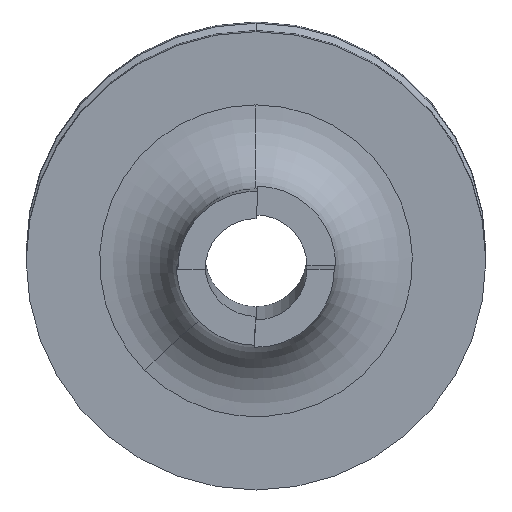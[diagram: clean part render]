
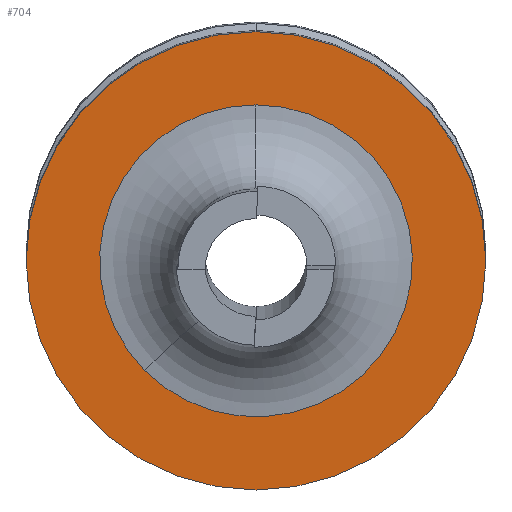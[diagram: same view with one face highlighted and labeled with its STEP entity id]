
A CAD part, left-side view. The second image highlights one B-rep face of the part: STEP entity #704.
In plain terms, the highlighted planar face has unit normal (-0.997, 0, -0.077).
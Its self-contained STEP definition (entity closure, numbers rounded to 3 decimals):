
#175=CARTESIAN_POINT('',(1188.943,0.,-95.572));
#176=DIRECTION('',(0.997,0.,0.077));
#177=DIRECTION('',(0.077,0.,-0.997));
#178=AXIS2_PLACEMENT_3D('',#175,#176,#177);
#180=CARTESIAN_POINT('',(1188.943,0.,-95.572));
#181=DIRECTION('',(-0.997,0.,-0.077));
#182=DIRECTION('',(0.077,0.,-0.997));
#183=AXIS2_PLACEMENT_3D('',#180,#181,#182);
#185=CARTESIAN_POINT('',(1188.943,0.,-95.572));
#186=DIRECTION('',(0.997,0.,0.077));
#187=DIRECTION('',(0.054,0.713,-0.699));
#188=AXIS2_PLACEMENT_3D('',#185,#186,#187);
#205=CARTESIAN_POINT('',(1188.943,0.,-95.572));
#206=DIRECTION('',(0.997,0.,0.077));
#207=DIRECTION('',(-0.077,0.,0.997));
#208=AXIS2_PLACEMENT_3D('',#205,#206,#207);
#324=CARTESIAN_POINT('',(1190.079,0.,-110.225));
#326=VERTEX_POINT('',#324);
#332=CARTESIAN_POINT('',(1187.808,0.,-80.92));
#334=VERTEX_POINT('',#332);
#397=CARTESIAN_POINT('',(1189.485,7.126,-102.567));
#398=CARTESIAN_POINT('',(1188.171,0.,-85.602));
#399=VERTEX_POINT('',#397);
#400=VERTEX_POINT('',#398);
#689=CARTESIAN_POINT('',(1188.943,0.,-95.572));
#690=DIRECTION('',(-0.997,0.,-0.077));
#691=DIRECTION('',(0.077,0.,-0.997));
#692=AXIS2_PLACEMENT_3D('',#689,#690,#691);
#693=PLANE('',#692);
#694=ORIENTED_EDGE('',*,*,#671,.T.);
#695=ORIENTED_EDGE('',*,*,#682,.F.);
#696=EDGE_LOOP('',(#694,#695));
#697=FACE_OUTER_BOUND('',#696,.F.);
#699=ORIENTED_EDGE('',*,*,#698,.F.);
#701=ORIENTED_EDGE('',*,*,#700,.F.);
#702=EDGE_LOOP('',(#699,#701));
#703=FACE_BOUND('',#702,.F.);
#704=ADVANCED_FACE('',(#697,#703),#693,.T.);
#179=CIRCLE('',#178,14.696);
#184=CIRCLE('',#183,14.696);
#189=CIRCLE('',#188,10.);
#209=CIRCLE('',#208,10.);
#671=EDGE_CURVE('',#326,#334,#179,.T.);
#682=EDGE_CURVE('',#326,#334,#184,.T.);
#698=EDGE_CURVE('',#400,#399,#209,.T.);
#700=EDGE_CURVE('',#399,#400,#189,.T.);
